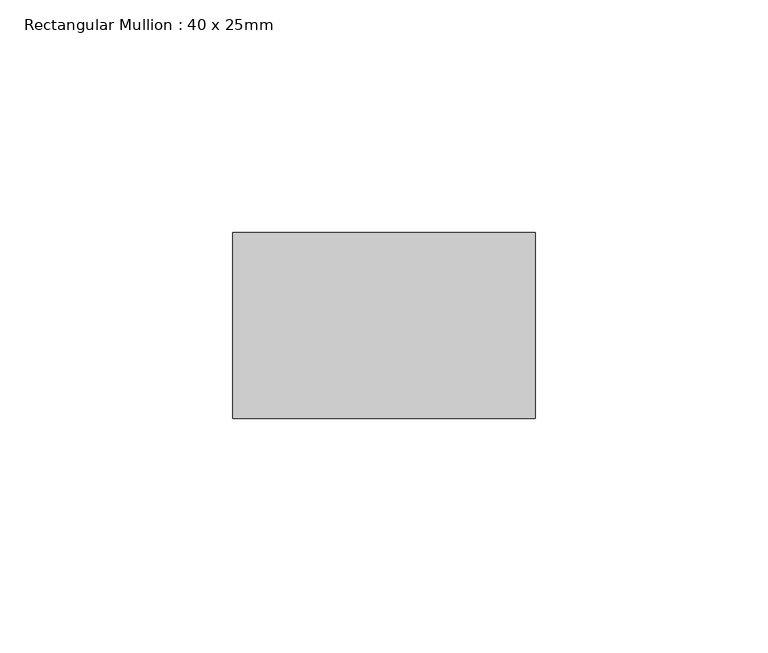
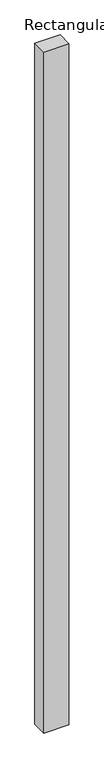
"""IFC4 building model written with IfcOpenShell, lengths in millimetres: member geometry, Rectangular Mullion : 40 x 25mm."""

from ifc_helpers import new_model, si_unit, frame, origin, place, context, project, spatial, polyline, outline, extrude, source, transform, mapped, element, save


def rectangular_mullion_40_x_25mm_de12d91c(model_context):
    return source(origin(), model_context, "Body", "SweptSolid", [
        extrude(outline(polyline([(0.0, -20.0), (0.0, -60.0), (-65.0, -60.0), (-65.0, -20.0), (0.0, -20.0)])), frame((0.0, 0.0, -1863.8192448), z_axis=(0.0, 0.0, 1.0), x_axis=(1.0, 0.0, 0.0)), (0.0, 0.0, 1.0), 1863.8192448),
    ])


if __name__ == "__main__":
    model = new_model("IFC4")
    model_context = context("Model", 3, world=origin())
    ifc_project = project(units=[si_unit("LENGTHUNIT", "METRE", prefix="MILLI")], contexts=[model_context])
    site = spatial("IfcSite", under=ifc_project)
    building = spatial("IfcBuilding", under=site)
    placement = place(None, origin())
    rectangular_mullion_40_x_25mm_shape = rectangular_mullion_40_x_25mm_de12d91c(model_context)
    element("IfcMember", 1, ObjectType="Rectangular Mullion : 40 x 25mm", at=placement, inside=building, context=model_context, shape_type="MappedRepresentation", body=[
        mapped(rectangular_mullion_40_x_25mm_shape, transform((0.0, 0.0, 0.0), x_axis=(1.0, 0.0, 0.0), y_axis=(0.0, 1.0, 0.0), z_axis=(0.0, 0.0, 1.0))),
    ])
    save(model, "model.ifc")
